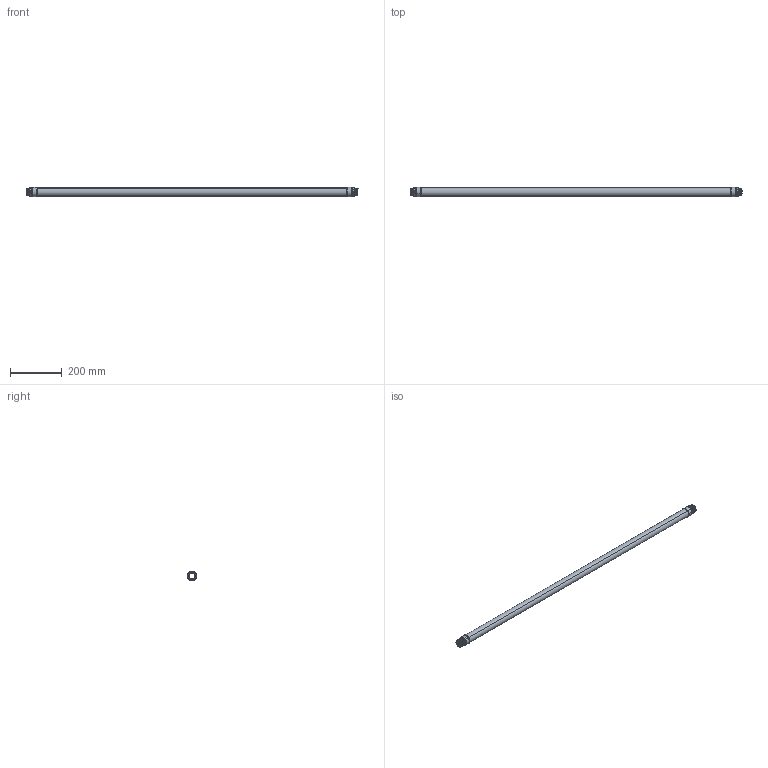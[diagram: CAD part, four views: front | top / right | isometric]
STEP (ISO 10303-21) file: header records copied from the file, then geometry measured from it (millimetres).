
FILE_DESCRIPTION (( 'STEP AP203' ), '1' );
FILE_NAME ('KP_TN25-13S.step', '2011-08-08T11:47:09', ( '' ), ( '' ), 'SwSTEP 2.0', 'SolidWorks 2011', '' );
FILE_SCHEMA (( 'CONFIG_CONTROL_DESIGN' ));
Length unit declared in the file: millimetre
Products named in the file (1): KP_TN25-13S
Bounding box: 1284.27 x 37.69 x 37.69 mm (x, y, z)
Volume: 556955 mm3; surface area: 238600.5 mm2
Topology: 3 solids, 3 shells, 122 faces, 304 edges, 192 vertices
Faces by surface type: cone 66, plane 28, cylinder 20, bspline 8
Entity records: 17569 total; most frequent: CARTESIAN_POINT 14811, ORIENTED_EDGE 608, DIRECTION 468, EDGE_CURVE 304, VERTEX_POINT 192, AXIS2_PLACEMENT_3D 179, EDGE_LOOP 132, B_SPLINE_CURVE_WITH_KNOTS 130
